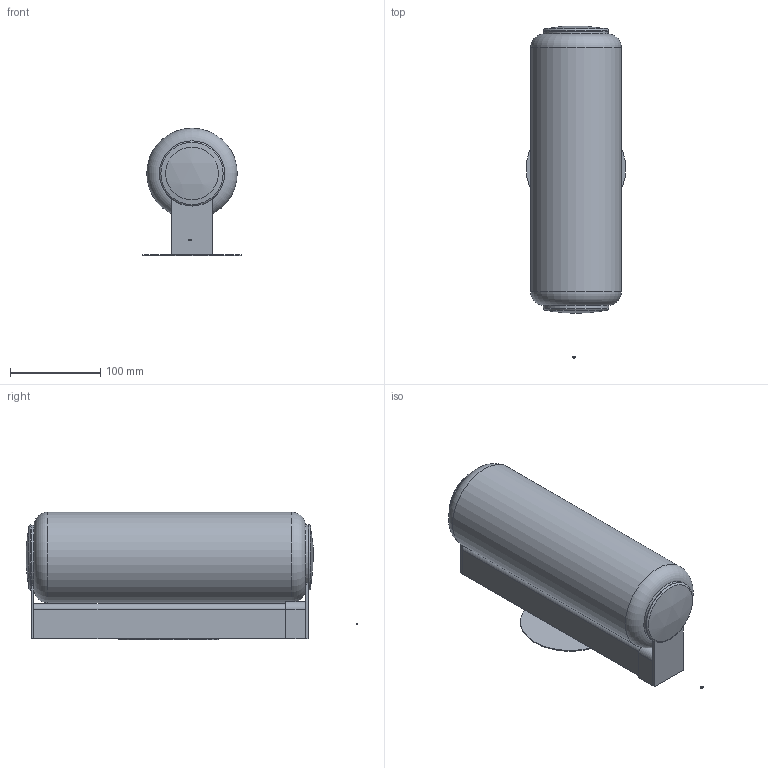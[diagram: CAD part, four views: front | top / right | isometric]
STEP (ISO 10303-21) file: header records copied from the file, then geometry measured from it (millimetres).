
FILE_DESCRIPTION(/* description */ ('STACKING P/PL 30 US'),/* implementation_level */ '2;1');
FILE_NAME(/* name */ '343Z0LD0-0USCA - STACKING P-PL 30 USA - VU RIG.stp',/* time_stamp */ '2026-01-29T11:25:00+01:00',/* author */ ('marco.prandina'),/* organization */ (''),/* preprocessor_version */ 'ST-DEVELOPER v20.1',/* originating_system */ 'Autodesk Inventor 2026',/* authorisation */ '');
FILE_SCHEMA (('AUTOMOTIVE_DESIGN { 1 0 10303 214 3 1 1 }'));
Length unit declared in the file: millimetre
Products named in the file (37): 343Z0LD0-0USCA; 343C667; 343C439; 343C669; GRANO M6X10 ISO 4026; 343C668; 343C635-A; 343C671; 343C665; 343C672; RONDELLA DENTELLATA ESTERNA M4; 343C657; 343C659-A; W027-BIA; X0023-020; 343C670; 00343C397; 00343C404; 00343C398; 00343C407-A; B006; VITE TCB M4X8 UNI7687 ZB; VITE TCB M3X8 UNI7687 ZB; VITE TSP M4X6 ZN; 00343C410; DADO M4 A3 - DIN 934; DADO M3 S2 M.00.06.19 UNI5588 DIN934; RONDELLA DENTELLATA ESTERNA M3 UNI8842A; K002; A031; Z016-A; Z016-B; Z017-Q; Z016-D; W030-NRO; W030-BIA; 00343V006-B-300
Assembly tree (45 placements, depth 2):
  343Z0LD0-0USCA
    343C667
    343C439
    343C669
    GRANO M6X10 ISO 4026
    343C668
    343C635-A
    343C671
    343C665
    DADO M4 A3 - DIN 934  x4
    RONDELLA DENTELLATA ESTERNA M4  x4
    343C672
    343C657
    343C659-A
    X0023-020  x2
    W027-BIA
    343C670
    00343C397
    00343C404
    00343C398
    00343C407-A
    B006
    VITE TCB M4X8 UNI7687 ZB
    VITE TCB M3X8 UNI7687 ZB  x3
    VITE TSP M4X6 ZN
    00343C410
    DADO M3 S2 M.00.06.19 UNI5588 DIN934
    RONDELLA DENTELLATA ESTERNA M3 UNI8842A
    K002
    A031
    Z016-A
    Z016-B
    Z017-Q
    Z016-D
    W030-NRO
    W030-BIA
    00343V006-B-300
Bounding box: 110 x 366.81 x 141 mm (x, y, z)
Volume: 843218.6 mm3; surface area: 612491.7 mm2
Topology: 47 solids, 87 shells, 4326 faces, 11805 edges, 7771 vertices
Faces by surface type: plane 2575, cylinder 825, bspline 565, cone 318, torus 32, sphere 11
Full cylindrical faces by diameter (mm): 1.02 x1, 1.9 x2, 2.459 x8, 2.5 x36, 2.75 x3, 2.9 x1, 3 x10, 3.2 x4, 3.242 x2, 3.4 x3, 3.459 x4, 3.5 x4, 3.571 x1, 3.65 x1, 4 x6, 4.2 x1, 4.3 x4, 4.5 x10, 4.917 x1, 5 x7, 5.2 x1, 5.6 x4, 6 x1, 6.5 x2, 8.4 x1, 9 x2, 10.5 x1, 12 x1, 12.5 x2, 12.917 x1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
Entity records: 138253 total; most frequent: CARTESIAN_POINT 35590, ORIENTED_EDGE 21690, DIRECTION 18068, EDGE_CURVE 10845, LINE 7446, VECTOR 7446, VERTEX_POINT 7146, AXIS2_PLACEMENT_3D 5311
